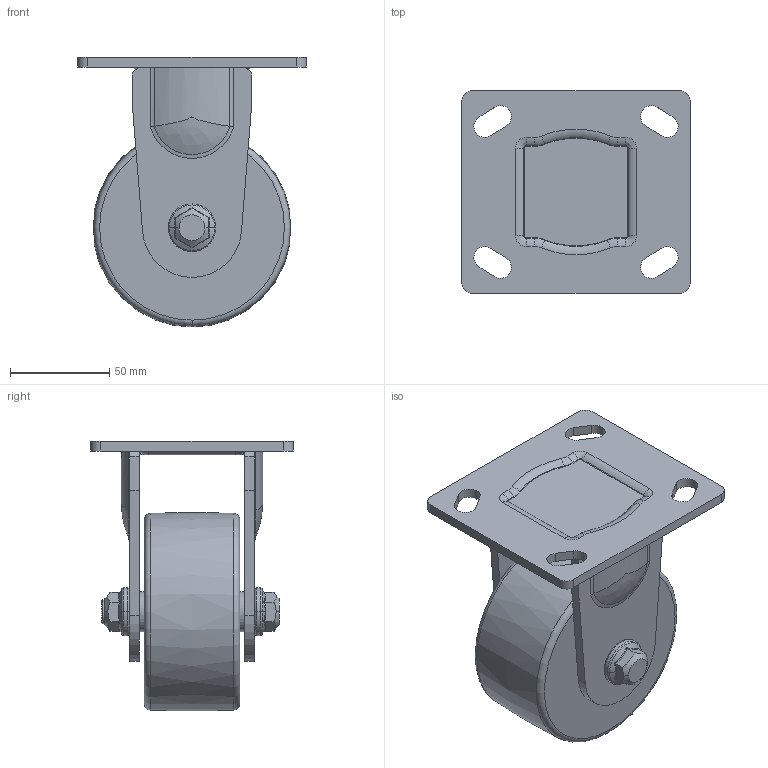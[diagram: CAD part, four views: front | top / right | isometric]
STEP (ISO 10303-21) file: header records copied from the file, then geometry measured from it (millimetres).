
FILE_DESCRIPTION((''),'2;1');
FILE_NAME('PM-100-ARF-NYD.stp','2013-04-30T08:57:12',(''),(''),'Mechanical Desktop 2009','Mechanical Desktop 2009',', , ');
FILE_SCHEMA(('CONFIG_CONTROL_DESIGN'));
Length unit declared in the file: millimetre
Products named in the file (2): PM-100-ARF-NYD; RF-PLATE
Assembly tree (1 placements, depth 2):
  PM-100-ARF-NYD
    RF-PLATE
Bounding box: 115 x 102 x 135.95 mm (x, y, z)
Volume: 493389.9 mm3; surface area: 79641 mm2
Topology: 1 solids, 1 shells, 191 faces, 488 edges, 306 vertices
Faces by surface type: plane 57, cylinder 56, bspline 30, torus 24, cone 24
Entity records: 7291 total; most frequent: CARTESIAN_POINT 2693, ORIENTED_EDGE 976, DIRECTION 914, EDGE_CURVE 488, AXIS2_PLACEMENT_3D 357, VERTEX_POINT 306, EDGE_LOOP 208, VECTOR 200
